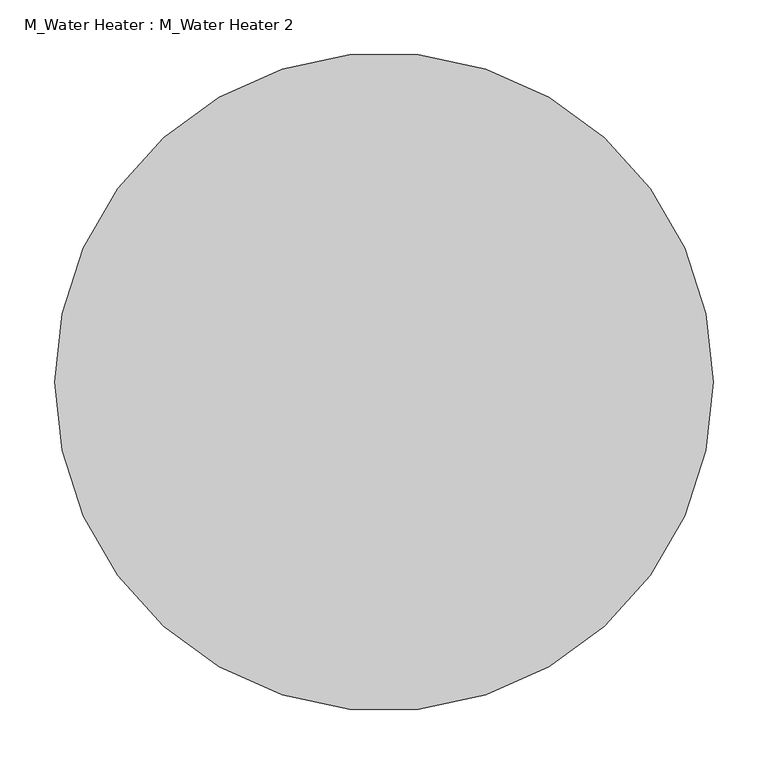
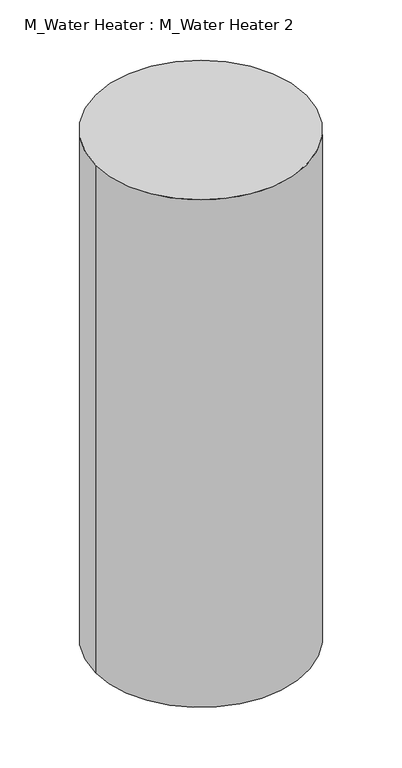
"""IFC4 building model written with IfcOpenShell, lengths in millimetres: flow terminal geometry, M_Water Heater : M_Water Heater 2."""

from ifc_helpers import new_model, si_unit, point, origin, origin_with_axes, origin_2d, place, context, project, spatial, circle_curve, trimmed, segment, composite_curve, outline, extrude, source, transform, mapped, element, save


def m_water_heater_m_water_heater_2_e81d62a2(model_context):
    return source(origin(), model_context, "Body", "SweptSolid", [
        extrude(outline(composite_curve([segment(trimmed(circle_curve(origin_2d(), 300.0), [point((-300.0, 0.0))], [point((300.0, 0.0))], False, "CARTESIAN"), True, "CONTINUOUS"), segment(trimmed(circle_curve(origin_2d(), 300.0), [point((300.0, 0.0))], [point((-300.0, 0.0))], False, "CARTESIAN"), True, "CONTINUOUS")], self_intersect=False)), origin_with_axes(), (0.0, 0.0, 1.0), 1525.0),
    ])


if __name__ == "__main__":
    model = new_model("IFC4")
    model_context = context("Model", 3, world=origin())
    ifc_project = project(units=[si_unit("LENGTHUNIT", "METRE", prefix="MILLI")], contexts=[model_context])
    site = spatial("IfcSite", under=ifc_project)
    building = spatial("IfcBuilding", under=site)
    placement = place(None, origin())
    m_water_heater_m_water_heater_2_shape = m_water_heater_m_water_heater_2_e81d62a2(model_context)
    element("IfcFlowTerminal", 1, ObjectType="M_Water Heater : M_Water Heater 2", at=placement, inside=building, context=model_context, shape_type="MappedRepresentation", body=[
        mapped(m_water_heater_m_water_heater_2_shape, transform((0.0, 0.0, 0.0), x_axis=(1.0, 0.0, 0.0), y_axis=(0.0, 1.0, 0.0), z_axis=(0.0, 0.0, 1.0))),
    ])
    save(model, "model.ifc")
